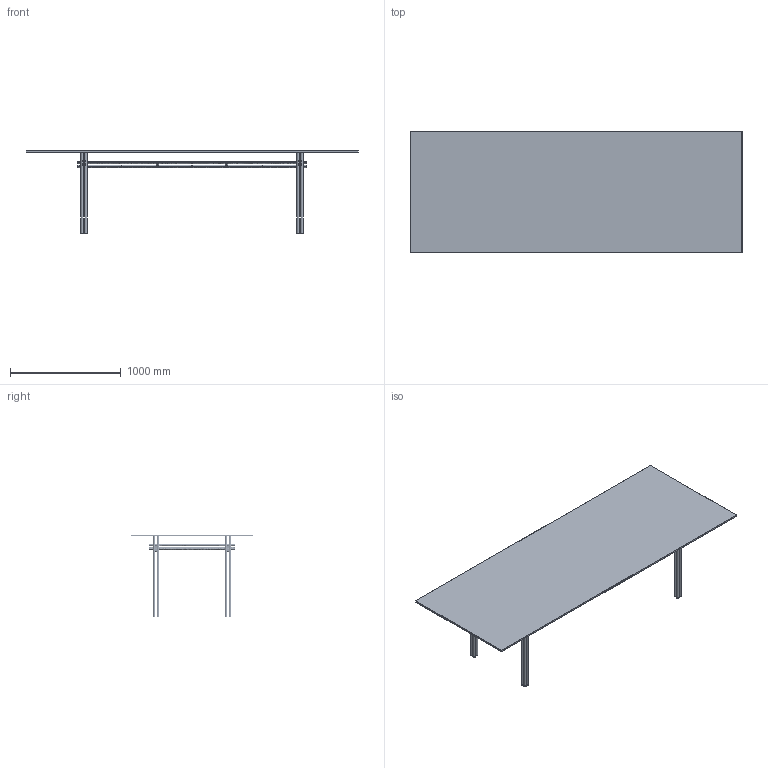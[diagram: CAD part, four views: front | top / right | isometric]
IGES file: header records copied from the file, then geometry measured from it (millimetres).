
Global section: file name: C:\Users\l.marzoli\Desktop\3D_files_2022\CRISTALINE-table_3D\300x110\CRISTALINE-300x110.igs; native system: Rhinoceros ( Aug 11 2021 ); preprocessor: Trout Lake IGES 012 Aug 11 2021; date: 221018.155350; units: millimetre
Bounding box: 3000 x 1100 x 749.96 mm (x, y, z)
Surface area: 9581413.2 mm2 (no closed solid volume)
Topology: 0 solids, 0 shells, 506 faces, 235660 edges, 235572 vertices
Faces by surface type: bspline 506
